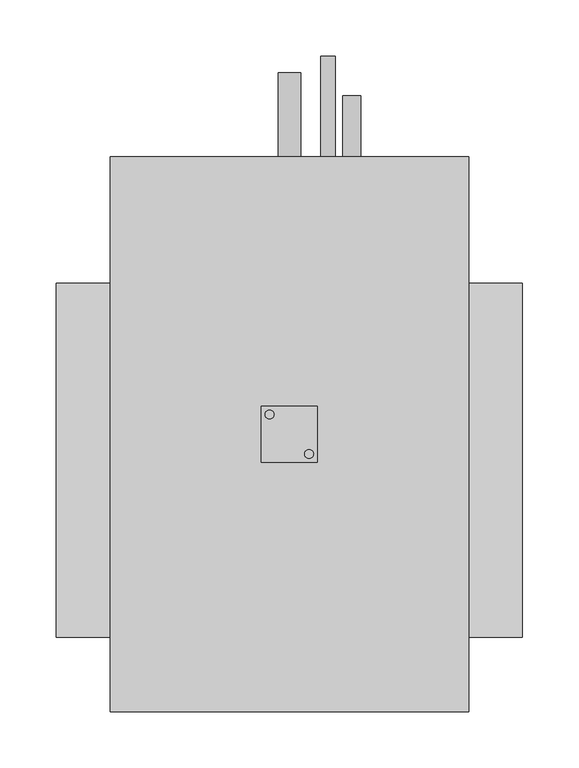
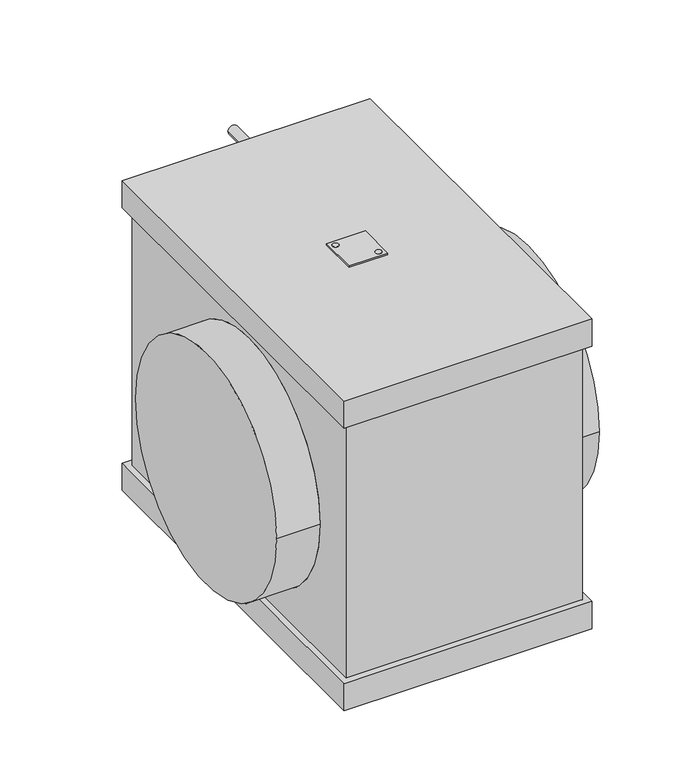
"""IFC4 building model written with IfcOpenShell, lengths in millimetres: proxy geometry, KORF_Охладитель_Фреоновый_Круглый_Правый_KFLO : KFLO 315/2."""

from ifc_helpers import new_model, si_unit, point, frame, frame_2d, origin, place, context, project, spatial, polyline, circle_curve, trimmed, segment, composite_curve, outline, extrude, source, transform, mapped, element, save
from ifc_brep_helpers import plane_surface, cylinder_surface, advanced_brep


def mechanical_equipment_d2f8c49c(model_context):
    return source(origin(), model_context, "Body", "SolidModel", [
        extrude(outline(composite_curve([segment(trimmed(circle_curve(frame_2d((189.9272934, 40.5745746)), 4.0), [point((185.9272934, 40.5745746))], [point((193.9272934, 40.5745746))], False, "CARTESIAN"), True, "CONTINUOUS"), segment(trimmed(circle_curve(frame_2d((189.9272934, 40.5745746)), 4.0), [point((193.9272934, 40.5745746))], [point((185.9272934, 40.5745746))], False, "CARTESIAN"), True, "CONTINUOUS")], self_intersect=False)), frame((0.0, 0.0, 210.5), z_axis=(0.0, 0.0, 1.0), x_axis=(1.0, 0.0, 0.0)), (0.0, 0.0, 1.0), 2.0),
        extrude(outline(composite_curve([segment(trimmed(circle_curve(frame_2d((225.0727066, 5.4254254)), 4.0), [point((229.0727066, 5.4254254))], [point((221.0727066, 5.4254254))], False, "CARTESIAN"), True, "CONTINUOUS"), segment(trimmed(circle_curve(frame_2d((225.0727066, 5.4254254)), 4.0), [point((221.0727066, 5.4254254))], [point((229.0727066, 5.4254254))], False, "CARTESIAN"), True, "CONTINUOUS")], self_intersect=False)), frame((0.0, 0.0, 210.5), z_axis=(0.0, 0.0, 1.0), x_axis=(1.0, 0.0, 0.0)), (0.0, 0.0, 1.0), 2.0),
        extrude(outline(polyline([(232.5, 48.0), (232.5, -2.0), (182.5, -2.0), (182.5, 48.0), (232.5, 48.0)]), holes=[composite_curve([segment(trimmed(circle_curve(frame_2d((189.9272934, 40.5745746)), 4.0), [point((185.9272934, 40.5745746))], [point((193.9272934, 40.5745746))], True, "CARTESIAN"), True, "CONTINUOUS"), segment(trimmed(circle_curve(frame_2d((189.9272934, 40.5745746)), 4.0), [point((193.9272934, 40.5745746))], [point((185.9272934, 40.5745746))], True, "CARTESIAN"), True, "CONTINUOUS")], self_intersect=False), composite_curve([segment(trimmed(circle_curve(frame_2d((225.0727066, 5.4254254)), 4.0), [point((229.0727066, 5.4254254))], [point((221.0727066, 5.4254254))], True, "CARTESIAN"), True, "CONTINUOUS"), segment(trimmed(circle_curve(frame_2d((225.0727066, 5.4254254)), 4.0), [point((221.0727066, 5.4254254))], [point((229.0727066, 5.4254254))], True, "CARTESIAN"), True, "CONTINUOUS")], self_intersect=False)]), frame((0.0, 0.0, 210.5), z_axis=(0.0, 0.0, 1.0), x_axis=(1.0, 0.0, 0.0)), (0.0, 0.0, 1.0), 2.0),
        advanced_brep(
        [(415.0, -157.5, 0.0), (415.0, 157.5, 0.0), (0.0, -157.5, 0.0), (0.0, 157.5, 0.0), (359.5, -157.5, 0.0), (359.5, 157.5, 0.0), (55.5, 157.5, 0.0), (55.5, -157.5, 0.0), (359.5, -215.5, -173.5), (359.5, 261.5, -173.5), (359.5, 261.5, 173.5), (359.5, -215.5, 173.5), (55.5, 261.5, -173.5), (55.5, -215.5, -173.5), (55.5, -215.5, 173.5), (55.5, 261.5, 173.5), (358.5, -215.5, -173.5), (358.5, -215.5, 173.5), (56.5, -215.5, 173.5), (56.5, -215.5, -173.5), (367.0, 270.0, -210.5), (367.0, -224.0, -210.5), (48.0, -224.0, -210.5), (48.0, 270.0, -210.5), (358.5, 261.5, -173.5), (56.5, 261.5, -173.5), (56.5, 261.5, 173.5), (358.5, 261.5, 173.5), (367.0, -224.0, 210.5), (367.0, 270.0, 210.5), (48.0, 270.0, 210.5), (48.0, -224.0, 210.5), (367.0, 270.0, -173.5), (367.0, -224.0, -173.5), (48.0, -224.0, -173.5), (48.0, 270.0, -173.5), (367.0, 270.0, 173.5), (367.0, -224.0, 173.5), (48.0, -224.0, 173.5), (48.0, 270.0, 173.5)],
        [
            (0, 1, circle_curve(frame((415.0, 0.0, 0.0), z_axis=(1.0, 0.0, 0.0), x_axis=(0.0, 1.0, 0.0)), 157.5)),
            (1, 0, circle_curve(frame((415.0, 0.0, 0.0), z_axis=(1.0, 0.0, 0.0), x_axis=(0.0, 1.0, 0.0)), 157.5)),
            (2, 3, circle_curve(frame((0.0, 0.0, 0.0), z_axis=(-1.0, 0.0, 0.0), x_axis=(0.0, 1.0, 0.0)), 157.5)),
            (3, 2, circle_curve(frame((0.0, 0.0, 0.0), z_axis=(-1.0, 0.0, 0.0), x_axis=(0.0, 1.0, 0.0)), 157.5)),
            (0, 4),
            (4, 5, circle_curve(frame((359.5, 0.0, 0.0), z_axis=(1.0, 0.0, 0.0), x_axis=(0.0, 1.0, 0.0)), 157.5)),
            (5, 1),
            (3, 6),
            (6, 7, circle_curve(frame((55.5, 0.0, 0.0), z_axis=(-1.0, 0.0, 0.0), x_axis=(0.0, 1.0, 0.0)), 157.5)),
            (7, 2),
            (5, 4, circle_curve(frame((359.5, 0.0, 0.0), z_axis=(1.0, 0.0, 0.0), x_axis=(0.0, 1.0, 0.0)), 157.5)),
            (7, 6, circle_curve(frame((55.5, 0.0, 0.0), z_axis=(-1.0, 0.0, 0.0), x_axis=(0.0, 1.0, 0.0)), 157.5)),
            (8, 9),
            (9, 10),
            (10, 11),
            (11, 8),
            (12, 13),
            (13, 14),
            (14, 15),
            (15, 12),
            (16, 8),
            (11, 17),
            (17, 18),
            (18, 14),
            (13, 19),
            (19, 16),
            (20, 21),
            (21, 22),
            (22, 23),
            (23, 20),
            (9, 24),
            (24, 25),
            (25, 12),
            (15, 26),
            (26, 27),
            (27, 10),
            (28, 29),
            (29, 30),
            (30, 31),
            (31, 28),
            (20, 32),
            (32, 33),
            (33, 21),
            (33, 34),
            (34, 22),
            (34, 35),
            (35, 23),
            (32, 35),
            (36, 29),
            (28, 37),
            (37, 36),
            (31, 38),
            (38, 37),
            (30, 39),
            (39, 38),
            (36, 39),
        ],
        [
            plane_surface(frame((415.0, 157.5, 0.0), z_axis=(1.0, 0.0, 0.0), x_axis=(0.0, 0.0, 1.0))),
            plane_surface(frame((0.0, 157.5, 0.0), z_axis=(-1.0, 0.0, 0.0), x_axis=(0.0, 0.0, -1.0))),
            cylinder_surface(frame((0.0, 0.0, 0.0), z_axis=(1.0, 0.0, 0.0), x_axis=(0.0, 1.0, 0.0)), 157.5),
            plane_surface(frame((359.5, -215.5, 210.5), z_axis=(1.0, 0.0, 0.0), x_axis=(0.0, 0.0, -1.0))),
            plane_surface(frame((55.5, -215.5, 210.5), z_axis=(-1.0, 0.0, 0.0), x_axis=(0.0, 0.0, 1.0))),
            plane_surface(frame((359.5, -215.5, 210.5), z_axis=(0.0, -1.0, 0.0), x_axis=(-1.0, 0.0, 0.0))),
            plane_surface(frame((359.5, -215.5, -210.5), z_axis=(0.0, 0.0, -1.0), x_axis=(-1.0, 0.0, 0.0))),
            plane_surface(frame((359.5, 261.5, -210.5), z_axis=(0.0, 1.0, 0.0), x_axis=(-1.0, 0.0, 0.0))),
            plane_surface(frame((359.5, 261.5, 210.5), z_axis=(0.0, 0.0, 1.0), x_axis=(-1.0, 0.0, 0.0))),
            plane_surface(frame((367.0, 270.0, -173.5), z_axis=(1.0, 0.0, 0.0), x_axis=(0.0, -1.0, 0.0))),
            plane_surface(frame((367.0, -224.0, -173.5), z_axis=(0.0, -1.0, 0.0), x_axis=(-1.0, 0.0, 0.0))),
            plane_surface(frame((48.0, -224.0, -173.5), z_axis=(-1.0, 0.0, 0.0), x_axis=(0.0, 1.0, 0.0))),
            plane_surface(frame((56.5, 261.5, -173.5), z_axis=(0.0, 0.0, 1.0), x_axis=(1.0, 0.0, 0.0))),
            plane_surface(frame((48.0, 270.0, -173.5), z_axis=(0.0, 1.0, 0.0), x_axis=(1.0, 0.0, 0.0))),
            plane_surface(frame((367.0, 270.0, 210.5), z_axis=(1.0, 0.0, 0.0), x_axis=(0.0, -1.0, 0.0))),
            plane_surface(frame((367.0, -224.0, 210.5), z_axis=(0.0, -1.0, 0.0), x_axis=(-1.0, 0.0, 0.0))),
            plane_surface(frame((48.0, -224.0, 210.5), z_axis=(-1.0, 0.0, 0.0), x_axis=(0.0, 1.0, 0.0))),
            plane_surface(frame((48.0, 270.0, 210.5), z_axis=(0.0, 1.0, 0.0), x_axis=(1.0, 0.0, 0.0))),
            plane_surface(frame((48.0, 270.0, 173.5), z_axis=(0.0, 0.0, -1.0), x_axis=(1.0, 0.0, 0.0))),
        ],
        [
            (0, [[1, 2]]),
            (1, [[3, 4]]),
            (2, [[-1, 5, 6, 7]]),
            (2, [[-4, 8, 9, 10]]),
            (2, [[-2, -7, 11, -5]]),
            (2, [[-3, -10, 12, -8]]),
            (3, [[13, 14, 15, 16], [-6, -11]]),
            (4, [[17, 18, 19, 20], [-9, -12]]),
            (5, [[21, -16, 22, 23, 24, -18, 25, 26]]),
            (6, [[27, 28, 29, 30]]),
            (7, [[31, 32, 33, -20, 34, 35, 36, -14]]),
            (8, [[37, 38, 39, 40]]),
            (9, [[41, 42, 43, -27]]),
            (10, [[-43, 44, 45, -28]]),
            (11, [[-45, 46, 47, -29]]),
            (12, [[-42, 48, -46, -44], [-13, -21, -26, -25, -17, -33, -32, -31]]),
            (13, [[-41, -30, -47, -48]]),
            (14, [[49, -37, 50, 51]]),
            (15, [[-50, -40, 52, 53]]),
            (16, [[-52, -39, 54, 55]]),
            (17, [[-49, 56, -54, -38]]),
            (18, [[-51, -53, -55, -56], [-15, -36, -35, -34, -19, -24, -23, -22]]),
        ],
    ),
        extrude(outline(composite_curve([segment(trimmed(circle_curve(frame_2d((-157.5, 263.0)), 7.94), [point((-157.5, 255.06))], [point((-157.5, 270.94))], False, "CARTESIAN"), True, "CONTINUOUS"), segment(trimmed(circle_curve(frame_2d((-157.5, 263.0)), 7.94), [point((-157.5, 270.94))], [point((-157.5, 255.06))], False, "CARTESIAN"), True, "CONTINUOUS")], self_intersect=False)), frame((0.0, 261.5, 0.0), z_axis=(0.0, 1.0, 0.0), x_axis=(0.0, 0.0, 1.0)), (0.0, 0.0, 1.0), 63.0),
        extrude(outline(composite_curve([segment(trimmed(circle_curve(frame_2d((157.5, 242.0)), 6.35), [point((157.5, 235.65))], [point((157.5, 248.35))], False, "CARTESIAN"), True, "CONTINUOUS"), segment(trimmed(circle_curve(frame_2d((157.5, 242.0)), 6.35), [point((157.5, 248.35))], [point((157.5, 235.65))], False, "CARTESIAN"), True, "CONTINUOUS")], self_intersect=False)), frame((0.0, 261.5, 0.0), z_axis=(0.0, 1.0, 0.0), x_axis=(0.0, 0.0, 1.0)), (0.0, 0.0, 1.0), 98.0),
        extrude(outline(composite_curve([segment(trimmed(circle_curve(frame_2d((-191.5, 207.5)), 10.0), [point((-191.5, 197.5))], [point((-191.5, 217.5))], False, "CARTESIAN"), True, "CONTINUOUS"), segment(trimmed(circle_curve(frame_2d((-191.5, 207.5)), 10.0), [point((-191.5, 217.5))], [point((-191.5, 197.5))], False, "CARTESIAN"), True, "CONTINUOUS")], self_intersect=False)), frame((0.0, 270.0, 0.0), z_axis=(0.0, 1.0, 0.0), x_axis=(0.0, 0.0, 1.0)), (0.0, 0.0, 1.0), 75.0),
    ])


if __name__ == "__main__":
    model = new_model("IFC4")
    model_context = context("Model", 3, world=origin())
    ifc_project = project(units=[si_unit("LENGTHUNIT", "METRE", prefix="MILLI")], contexts=[model_context])
    site = spatial("IfcSite", under=ifc_project)
    building = spatial("IfcBuilding", under=site)
    placement = place(None, origin())
    mechanical_equipment_shape = mechanical_equipment_d2f8c49c(model_context)
    element("IfcBuildingElementProxy", 1, Name="KORF_Охладитель_Фреоновый_Круглый_Правый_KFLO : KFLO 315/2", ObjectType="KORF_Охладитель_Фреоновый_Круглый_Правый_KFLO : KFLO 315/2", at=placement, inside=building, context=model_context, shape_type="MappedRepresentation", body=[
        mapped(mechanical_equipment_shape, transform((0.0, 0.0, 0.0), x_axis=(1.0, 0.0, 0.0), y_axis=(0.0, 1.0, 0.0), z_axis=(0.0, 0.0, 1.0))),
    ])
    save(model, "model.ifc")
